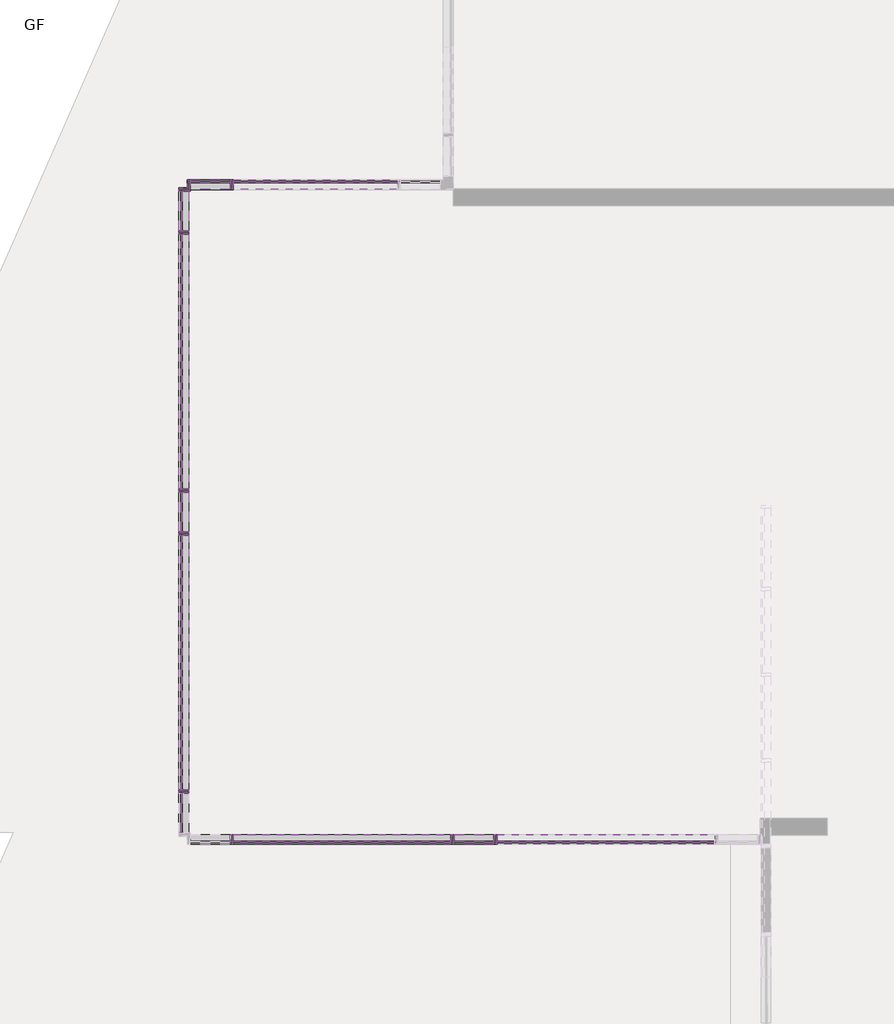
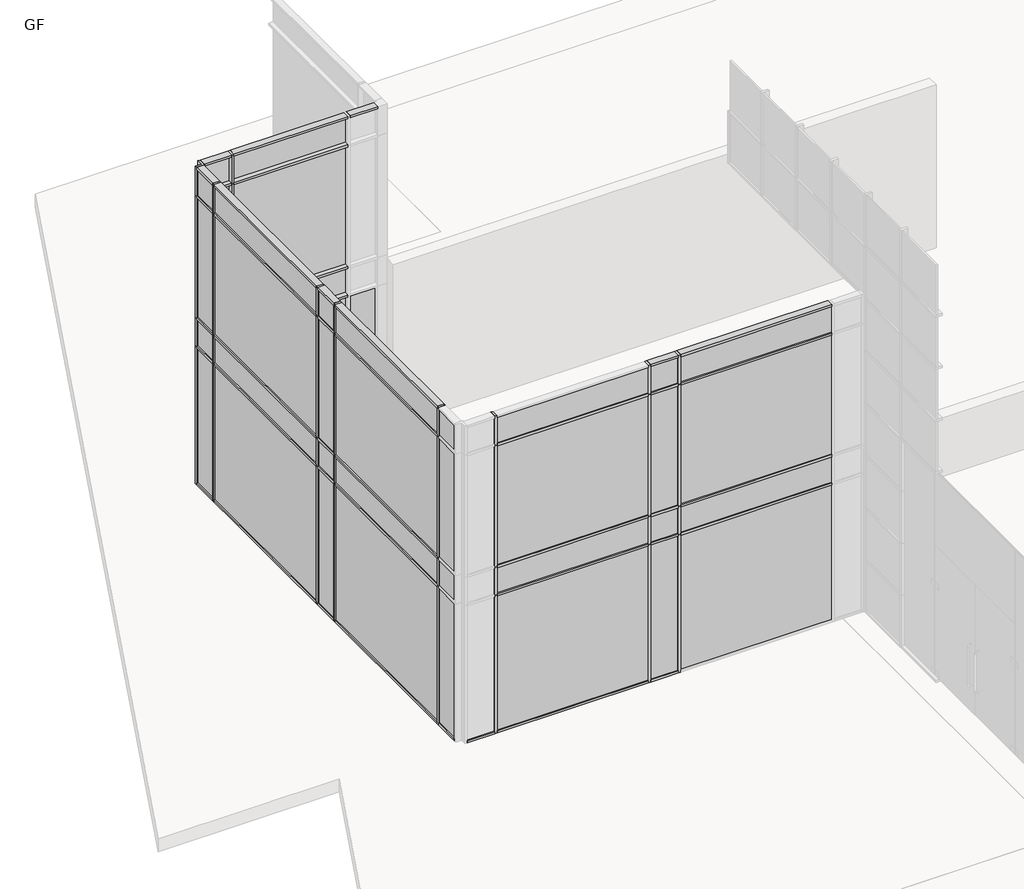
# One storey, part 13 of 23: 81 members, 41 plates.
"""IFC4 building model written with IfcOpenShell, lengths in millimetres."""

from ifc_helpers import new_model, si_unit, origin, place, context, project, spatial, transform, mapped, element, save
from components import rectangular_mullion_50_x_150mm_64d38db8, rectangular_mullion_50_x_150mm_68b3818a, rectangular_mullion_50_x_150mm_0240cd64, rectangular_mullion_50_x_150mm_d11e3bb4, rectangular_mullion_50_x_150mm_7d543e93, rectangular_mullion_50_x_150mm_9e0f1e24, rectangular_mullion_50_x_150mm_eae7d4bc, rectangular_mullion_50_x_150mm_e0b7c4f8, rectangular_mullion_50_x_150mm_4f882940, rectangular_mullion_50_x_150mm_edc7ebc1, rectangular_mullion_50_x_150mm_73a7075e, rectangular_mullion_50_x_150mm_567a4a66, v_corner_mullion_v_mullion_1_4652a198, v_corner_mullion_v_mullion_1_67d7d202, v_corner_mullion_v_mullion_1_71accf86, v_corner_mullion_v_mullion_1_6526e4b7, system_panel_glazed_24812111, system_panel_glazed_e5239730, system_panel_glazed_6ff5b55b, system_panel_glazed_93ed122c, system_panel_glazed_a7232eb8, system_panel_glazed_2ee935f9, system_panel_glazed_98bb05ca, system_panel_glazed_9694b00d, system_panel_glazed_ab3d2984, system_panel_glazed_6fe05368, system_panel_glazed_1585a9ad, system_panel_glazed_bcb18e60, system_panel_glazed_268463b7, system_panel_glazed_33089aa0, system_panel_glazed_04dc8901

model = new_model("IFC4")

# Units and contexts
model_context = context("Model", 3, world=origin())
ifc_project = project(units=[si_unit("LENGTHUNIT", "METRE", prefix="MILLI")], contexts=[model_context])

# Site, building, storey
site = spatial("IfcSite", under=ifc_project)
building = spatial("IfcBuilding", under=site)
storey = spatial("IfcBuildingStorey", under=building, Name="GF", Elevation=900.0)

# Members
placement = place(None, origin())
rectangular_mullion_50_x_150mm_shape = rectangular_mullion_50_x_150mm_64d38db8(model_context)
element("IfcMember", 1, ObjectType="Rectangular Mullion : 50 x 150mm", at=placement, inside=storey, context=model_context, shape_type="MappedRepresentation", body=[
    mapped(rectangular_mullion_50_x_150mm_shape, transform((-39612.5865899, 11022.3851348, 8200.0), x_axis=(0.0, 0.0, 1.0), y_axis=(-1.0, 0.0, 0.0), z_axis=(0.0, -1.0, 0.0))),
])
element("IfcMember", 2, ObjectType="Rectangular Mullion : 50 x 150mm", at=placement, inside=storey, context=model_context, shape_type="MappedRepresentation", body=[
    mapped(rectangular_mullion_50_x_150mm_shape, transform((-39612.5865899, 6472.3851347, 8200.0), x_axis=(0.0, 0.0, 1.0), y_axis=(-1.0, 0.0, 0.0), z_axis=(0.0, -1.0, 0.0))),
])
element("IfcMember", 3, ObjectType="Rectangular Mullion : 50 x 150mm", at=placement, inside=storey, context=model_context, shape_type="MappedRepresentation", body=[
    mapped(rectangular_mullion_50_x_150mm_shape, transform((-39612.5865899, 11622.3851347, 900.0), x_axis=(0.0, 0.0, -1.0), y_axis=(-1.0, 0.0, 0.0), z_axis=(0.0, 1.0, 0.0))),
])
element("IfcMember", 4, ObjectType="Rectangular Mullion : 50 x 150mm", at=placement, inside=storey, context=model_context, shape_type="MappedRepresentation", body=[
    mapped(rectangular_mullion_50_x_150mm_shape, transform((-39612.5865899, 2522.3851347, 900.0), x_axis=(0.0, 0.0, -1.0), y_axis=(-1.0, 0.0, 0.0), z_axis=(0.0, 1.0, 0.0))),
])
element("IfcMember", 5, ObjectType="Rectangular Mullion : 50 x 150mm", at=placement, inside=storey, context=model_context, shape_type="MappedRepresentation", body=[
    mapped(rectangular_mullion_50_x_150mm_shape, transform((-39612.5865899, 7072.3851347, 900.0), x_axis=(0.0, 0.0, -1.0), y_axis=(-1.0, 0.0, 0.0), z_axis=(0.0, 1.0, 0.0))),
])
element("IfcMember", 6, ObjectType="Rectangular Mullion : 50 x 150mm", at=placement, inside=storey, context=model_context, shape_type="MappedRepresentation", body=[
    mapped(rectangular_mullion_50_x_150mm_shape, transform((-35525.0865899, 1822.3851347, 8200.0), x_axis=(0.0, 0.0, 1.0), y_axis=(0.0, 1.0, 0.0), z_axis=(-1.0, 0.0, 0.0))),
])
element("IfcMember", 7, ObjectType="Rectangular Mullion : 50 x 150mm", at=placement, inside=storey, context=model_context, shape_type="MappedRepresentation", body=[
    mapped(rectangular_mullion_50_x_150mm_shape, transform((-38912.5865899, 1822.3851347, 900.0), x_axis=(0.0, 0.0, -1.0), y_axis=(0.0, 1.0, 0.0), z_axis=(1.0, 0.0, 0.0))),
])
element("IfcMember", 8, ObjectType="Rectangular Mullion : 50 x 150mm", at=placement, inside=storey, context=model_context, shape_type="MappedRepresentation", body=[
    mapped(rectangular_mullion_50_x_150mm_shape, transform((-34925.0865899, 1822.3851347, 900.0), x_axis=(0.0, 0.0, -1.0), y_axis=(0.0, 1.0, 0.0), z_axis=(1.0, 0.0, 0.0))),
])
rectangular_mullion_50_x_150mm_2_shape = rectangular_mullion_50_x_150mm_68b3818a(model_context)
element("IfcMember", 9, ObjectType="Rectangular Mullion : 50 x 150mm", at=placement, inside=storey, context=model_context, shape_type="MappedRepresentation", body=[
    mapped(rectangular_mullion_50_x_150mm_2_shape, transform((-35525.0865899, 1822.3851347, 7525.0), x_axis=(0.0, 0.0, 1.0), y_axis=(0.0, 1.0, 0.0), z_axis=(-1.0, 0.0, 0.0))),
])
element("IfcMember", 10, ObjectType="Rectangular Mullion : 50 x 150mm", at=placement, inside=storey, context=model_context, shape_type="MappedRepresentation", body=[
    mapped(rectangular_mullion_50_x_150mm_2_shape, transform((-35525.0865899, 1822.3851347, 4075.0), x_axis=(0.0, 0.0, 1.0), y_axis=(0.0, 1.0, 0.0), z_axis=(-1.0, 0.0, 0.0))),
])
element("IfcMember", 11, ObjectType="Rectangular Mullion : 50 x 150mm", at=placement, inside=storey, context=model_context, shape_type="MappedRepresentation", body=[
    mapped(rectangular_mullion_50_x_150mm_2_shape, transform((-35525.0865899, 1822.3851347, 4725.0), x_axis=(0.0, 0.0, 1.0), y_axis=(0.0, 1.0, 0.0), z_axis=(-1.0, 0.0, 0.0))),
])
element("IfcMember", 12, ObjectType="Rectangular Mullion : 50 x 150mm", at=placement, inside=storey, context=model_context, shape_type="MappedRepresentation", body=[
    mapped(rectangular_mullion_50_x_150mm_shape, transform((-39512.5865899, 11722.3851347, 8200.0), x_axis=(0.0, 0.0, 1.0), y_axis=(0.0, 1.0, 0.0), z_axis=(-1.0, 0.0, 0.0))),
])
element("IfcMember", 13, ObjectType="Rectangular Mullion : 50 x 150mm", at=placement, inside=storey, context=model_context, shape_type="MappedRepresentation", body=[
    mapped(rectangular_mullion_50_x_150mm_shape, transform((-36337.5865899, 11722.3851347, 8200.0), x_axis=(0.0, 0.0, 1.0), y_axis=(0.0, 1.0, 0.0), z_axis=(-1.0, 0.0, 0.0))),
])
element("IfcMember", 14, ObjectType="Rectangular Mullion : 50 x 150mm", at=placement, inside=storey, context=model_context, shape_type="MappedRepresentation", body=[
    mapped(rectangular_mullion_50_x_150mm_shape, transform((-38912.5865899, 11722.3851347, 900.0), x_axis=(0.0, 0.0, -1.0), y_axis=(0.0, 1.0, 0.0), z_axis=(1.0, 0.0, 0.0))),
])
element("IfcMember", 15, ObjectType="Rectangular Mullion : 50 x 150mm", at=placement, inside=storey, context=model_context, shape_type="MappedRepresentation", body=[
    mapped(rectangular_mullion_50_x_150mm_2_shape, transform((-39612.5865899, 11022.3851348, 7525.0), x_axis=(0.0, 0.0, 1.0), y_axis=(-1.0, 0.0, 0.0), z_axis=(0.0, -1.0, 0.0))),
])
element("IfcMember", 16, ObjectType="Rectangular Mullion : 50 x 150mm", at=placement, inside=storey, context=model_context, shape_type="MappedRepresentation", body=[
    mapped(rectangular_mullion_50_x_150mm_2_shape, transform((-39612.5865899, 6472.3851347, 7525.0), x_axis=(0.0, 0.0, 1.0), y_axis=(-1.0, 0.0, 0.0), z_axis=(0.0, -1.0, 0.0))),
])
element("IfcMember", 17, ObjectType="Rectangular Mullion : 50 x 150mm", at=placement, inside=storey, context=model_context, shape_type="MappedRepresentation", body=[
    mapped(rectangular_mullion_50_x_150mm_2_shape, transform((-39612.5865899, 11022.3851348, 4725.0), x_axis=(0.0, 0.0, 1.0), y_axis=(-1.0, 0.0, 0.0), z_axis=(0.0, -1.0, 0.0))),
])
element("IfcMember", 18, ObjectType="Rectangular Mullion : 50 x 150mm", at=placement, inside=storey, context=model_context, shape_type="MappedRepresentation", body=[
    mapped(rectangular_mullion_50_x_150mm_2_shape, transform((-39612.5865899, 6472.3851347, 4725.0), x_axis=(0.0, 0.0, 1.0), y_axis=(-1.0, 0.0, 0.0), z_axis=(0.0, -1.0, 0.0))),
])
element("IfcMember", 19, ObjectType="Rectangular Mullion : 50 x 150mm", at=placement, inside=storey, context=model_context, shape_type="MappedRepresentation", body=[
    mapped(rectangular_mullion_50_x_150mm_2_shape, transform((-39612.5865899, 11022.3851348, 4075.0), x_axis=(0.0, 0.0, 1.0), y_axis=(-1.0, 0.0, 0.0), z_axis=(0.0, -1.0, 0.0))),
])
element("IfcMember", 20, ObjectType="Rectangular Mullion : 50 x 150mm", at=placement, inside=storey, context=model_context, shape_type="MappedRepresentation", body=[
    mapped(rectangular_mullion_50_x_150mm_2_shape, transform((-39612.5865899, 6472.3851347, 4075.0), x_axis=(0.0, 0.0, 1.0), y_axis=(-1.0, 0.0, 0.0), z_axis=(0.0, -1.0, 0.0))),
])
element("IfcMember", 21, ObjectType="Rectangular Mullion : 50 x 150mm", at=placement, inside=storey, context=model_context, shape_type="MappedRepresentation", body=[
    mapped(rectangular_mullion_50_x_150mm_2_shape, transform((-39512.5865899, 11722.3851347, 7525.0), x_axis=(0.0, 0.0, 1.0), y_axis=(0.0, 1.0, 0.0), z_axis=(-1.0, 0.0, 0.0))),
])
element("IfcMember", 22, ObjectType="Rectangular Mullion : 50 x 150mm", at=placement, inside=storey, context=model_context, shape_type="MappedRepresentation", body=[
    mapped(rectangular_mullion_50_x_150mm_2_shape, transform((-39512.5865899, 11722.3851347, 4725.0), x_axis=(0.0, 0.0, 1.0), y_axis=(0.0, 1.0, 0.0), z_axis=(-1.0, 0.0, 0.0))),
])
element("IfcMember", 23, ObjectType="Rectangular Mullion : 50 x 150mm", at=placement, inside=storey, context=model_context, shape_type="MappedRepresentation", body=[
    mapped(rectangular_mullion_50_x_150mm_2_shape, transform((-39512.5865899, 11722.3851347, 4075.0), x_axis=(0.0, 0.0, 1.0), y_axis=(0.0, 1.0, 0.0), z_axis=(-1.0, 0.0, 0.0))),
])
rectangular_mullion_50_x_150mm_3_shape = rectangular_mullion_50_x_150mm_0240cd64(model_context)
element("IfcMember", 24, ObjectType="Rectangular Mullion : 50 x 150mm", at=placement, inside=storey, context=model_context, shape_type="MappedRepresentation", body=[
    mapped(rectangular_mullion_50_x_150mm_3_shape, transform((-38862.5865899, 11722.3851347, 8200.0), x_axis=(0.0, 0.0, 1.0), y_axis=(0.0, 1.0, 0.0), z_axis=(-1.0, 0.0, 0.0))),
])
rectangular_mullion_50_x_150mm_4_shape = rectangular_mullion_50_x_150mm_d11e3bb4(model_context)
element("IfcMember", 25, ObjectType="Rectangular Mullion : 50 x 150mm", at=placement, inside=storey, context=model_context, shape_type="MappedRepresentation", body=[
    mapped(rectangular_mullion_50_x_150mm_4_shape, transform((-34900.0865899, 1822.3851347, 4725.0), x_axis=(-1.0, 0.0, 0.0), y_axis=(0.0, 1.0, 0.0), z_axis=(0.0, 0.0, -1.0))),
])
element("IfcMember", 26, ObjectType="Rectangular Mullion : 50 x 150mm", at=placement, inside=storey, context=model_context, shape_type="MappedRepresentation", body=[
    mapped(rectangular_mullion_50_x_150mm_4_shape, transform((-35550.0865899, 1822.3851347, 4725.0), x_axis=(-1.0, 0.0, 0.0), y_axis=(0.0, 1.0, 0.0), z_axis=(0.0, 0.0, -1.0))),
])
element("IfcMember", 27, ObjectType="Rectangular Mullion : 50 x 150mm", at=placement, inside=storey, context=model_context, shape_type="MappedRepresentation", body=[
    mapped(rectangular_mullion_50_x_150mm_4_shape, transform((-38887.5865899, 1822.3851347, 4725.0), x_axis=(-1.0, 0.0, 0.0), y_axis=(0.0, 1.0, 0.0), z_axis=(0.0, 0.0, -1.0))),
])
rectangular_mullion_50_x_150mm_5_shape = rectangular_mullion_50_x_150mm_7d543e93(model_context)
element("IfcMember", 28, ObjectType="Rectangular Mullion : 50 x 150mm", at=placement, inside=storey, context=model_context, shape_type="MappedRepresentation", body=[
    mapped(rectangular_mullion_50_x_150mm_5_shape, transform((-34900.0865899, 1822.3851347, 4075.0), x_axis=(-1.0, 0.0, 0.0), y_axis=(0.0, 1.0, 0.0), z_axis=(0.0, 0.0, -1.0))),
])
element("IfcMember", 29, ObjectType="Rectangular Mullion : 50 x 150mm", at=placement, inside=storey, context=model_context, shape_type="MappedRepresentation", body=[
    mapped(rectangular_mullion_50_x_150mm_5_shape, transform((-35550.0865899, 1822.3851347, 4075.0), x_axis=(-1.0, 0.0, 0.0), y_axis=(0.0, 1.0, 0.0), z_axis=(0.0, 0.0, -1.0))),
])
element("IfcMember", 30, ObjectType="Rectangular Mullion : 50 x 150mm", at=placement, inside=storey, context=model_context, shape_type="MappedRepresentation", body=[
    mapped(rectangular_mullion_50_x_150mm_5_shape, transform((-38887.5865899, 1822.3851347, 4075.0), x_axis=(-1.0, 0.0, 0.0), y_axis=(0.0, 1.0, 0.0), z_axis=(0.0, 0.0, -1.0))),
])
rectangular_mullion_50_x_150mm_6_shape = rectangular_mullion_50_x_150mm_9e0f1e24(model_context)
element("IfcMember", 31, ObjectType="Rectangular Mullion : 50 x 150mm", at=placement, inside=storey, context=model_context, shape_type="MappedRepresentation", body=[
    mapped(rectangular_mullion_50_x_150mm_6_shape, transform((-34900.0865899, 1822.3851347, 7525.0), x_axis=(-1.0, 0.0, 0.0), y_axis=(0.0, 1.0, 0.0), z_axis=(0.0, 0.0, -1.0))),
])
element("IfcMember", 32, ObjectType="Rectangular Mullion : 50 x 150mm", at=placement, inside=storey, context=model_context, shape_type="MappedRepresentation", body=[
    mapped(rectangular_mullion_50_x_150mm_6_shape, transform((-35550.0865899, 1822.3851347, 7525.0), x_axis=(-1.0, 0.0, 0.0), y_axis=(0.0, 1.0, 0.0), z_axis=(0.0, 0.0, -1.0))),
])
element("IfcMember", 33, ObjectType="Rectangular Mullion : 50 x 150mm", at=placement, inside=storey, context=model_context, shape_type="MappedRepresentation", body=[
    mapped(rectangular_mullion_50_x_150mm_6_shape, transform((-38887.5865899, 1822.3851347, 7525.0), x_axis=(-1.0, 0.0, 0.0), y_axis=(0.0, 1.0, 0.0), z_axis=(0.0, 0.0, -1.0))),
])
element("IfcMember", 34, ObjectType="Rectangular Mullion : 50 x 150mm", at=placement, inside=storey, context=model_context, shape_type="MappedRepresentation", body=[
    mapped(rectangular_mullion_50_x_150mm_4_shape, transform((-39612.5865899, 10997.3851348, 4725.0), x_axis=(0.0, -1.0, 0.0), y_axis=(-1.0, 0.0, 0.0), z_axis=(0.0, 0.0, -1.0))),
])
element("IfcMember", 35, ObjectType="Rectangular Mullion : 50 x 150mm", at=placement, inside=storey, context=model_context, shape_type="MappedRepresentation", body=[
    mapped(rectangular_mullion_50_x_150mm_4_shape, transform((-39612.5865899, 7097.3851347, 4725.0), x_axis=(0.0, -1.0, 0.0), y_axis=(-1.0, 0.0, 0.0), z_axis=(0.0, 0.0, -1.0))),
])
element("IfcMember", 36, ObjectType="Rectangular Mullion : 50 x 150mm", at=placement, inside=storey, context=model_context, shape_type="MappedRepresentation", body=[
    mapped(rectangular_mullion_50_x_150mm_4_shape, transform((-39612.5865899, 6447.3851347, 4725.0), x_axis=(0.0, -1.0, 0.0), y_axis=(-1.0, 0.0, 0.0), z_axis=(0.0, 0.0, -1.0))),
])
element("IfcMember", 37, ObjectType="Rectangular Mullion : 50 x 150mm", at=placement, inside=storey, context=model_context, shape_type="MappedRepresentation", body=[
    mapped(rectangular_mullion_50_x_150mm_4_shape, transform((-39612.5865899, 2547.3851347, 4725.0), x_axis=(0.0, -1.0, 0.0), y_axis=(-1.0, 0.0, 0.0), z_axis=(0.0, 0.0, -1.0))),
])
element("IfcMember", 38, ObjectType="Rectangular Mullion : 50 x 150mm", at=placement, inside=storey, context=model_context, shape_type="MappedRepresentation", body=[
    mapped(rectangular_mullion_50_x_150mm_4_shape, transform((-38887.5865899, 11722.3851347, 4725.0), x_axis=(-1.0, 0.0, 0.0), y_axis=(0.0, 1.0, 0.0), z_axis=(0.0, 0.0, -1.0))),
])
element("IfcMember", 39, ObjectType="Rectangular Mullion : 50 x 150mm", at=placement, inside=storey, context=model_context, shape_type="MappedRepresentation", body=[
    mapped(rectangular_mullion_50_x_150mm_5_shape, transform((-39612.5865899, 10997.3851348, 4075.0), x_axis=(0.0, -1.0, 0.0), y_axis=(-1.0, 0.0, 0.0), z_axis=(0.0, 0.0, -1.0))),
])
element("IfcMember", 40, ObjectType="Rectangular Mullion : 50 x 150mm", at=placement, inside=storey, context=model_context, shape_type="MappedRepresentation", body=[
    mapped(rectangular_mullion_50_x_150mm_5_shape, transform((-39612.5865899, 7097.3851347, 4075.0), x_axis=(0.0, -1.0, 0.0), y_axis=(-1.0, 0.0, 0.0), z_axis=(0.0, 0.0, -1.0))),
])
element("IfcMember", 41, ObjectType="Rectangular Mullion : 50 x 150mm", at=placement, inside=storey, context=model_context, shape_type="MappedRepresentation", body=[
    mapped(rectangular_mullion_50_x_150mm_5_shape, transform((-39612.5865899, 6447.3851347, 4075.0), x_axis=(0.0, -1.0, 0.0), y_axis=(-1.0, 0.0, 0.0), z_axis=(0.0, 0.0, -1.0))),
])
element("IfcMember", 42, ObjectType="Rectangular Mullion : 50 x 150mm", at=placement, inside=storey, context=model_context, shape_type="MappedRepresentation", body=[
    mapped(rectangular_mullion_50_x_150mm_5_shape, transform((-39612.5865899, 2547.3851347, 4075.0), x_axis=(0.0, -1.0, 0.0), y_axis=(-1.0, 0.0, 0.0), z_axis=(0.0, 0.0, -1.0))),
])
element("IfcMember", 43, ObjectType="Rectangular Mullion : 50 x 150mm", at=placement, inside=storey, context=model_context, shape_type="MappedRepresentation", body=[
    mapped(rectangular_mullion_50_x_150mm_5_shape, transform((-38887.5865899, 11722.3851347, 4075.0), x_axis=(-1.0, 0.0, 0.0), y_axis=(0.0, 1.0, 0.0), z_axis=(0.0, 0.0, -1.0))),
])
element("IfcMember", 44, ObjectType="Rectangular Mullion : 50 x 150mm", at=placement, inside=storey, context=model_context, shape_type="MappedRepresentation", body=[
    mapped(rectangular_mullion_50_x_150mm_6_shape, transform((-39612.5865899, 10997.3851348, 7525.0), x_axis=(0.0, -1.0, 0.0), y_axis=(-1.0, 0.0, 0.0), z_axis=(0.0, 0.0, -1.0))),
])
element("IfcMember", 45, ObjectType="Rectangular Mullion : 50 x 150mm", at=placement, inside=storey, context=model_context, shape_type="MappedRepresentation", body=[
    mapped(rectangular_mullion_50_x_150mm_6_shape, transform((-39612.5865899, 7097.3851347, 7525.0), x_axis=(0.0, -1.0, 0.0), y_axis=(-1.0, 0.0, 0.0), z_axis=(0.0, 0.0, -1.0))),
])
element("IfcMember", 46, ObjectType="Rectangular Mullion : 50 x 150mm", at=placement, inside=storey, context=model_context, shape_type="MappedRepresentation", body=[
    mapped(rectangular_mullion_50_x_150mm_6_shape, transform((-39612.5865899, 6447.3851347, 7525.0), x_axis=(0.0, -1.0, 0.0), y_axis=(-1.0, 0.0, 0.0), z_axis=(0.0, 0.0, -1.0))),
])
element("IfcMember", 47, ObjectType="Rectangular Mullion : 50 x 150mm", at=placement, inside=storey, context=model_context, shape_type="MappedRepresentation", body=[
    mapped(rectangular_mullion_50_x_150mm_6_shape, transform((-39612.5865899, 2547.3851347, 7525.0), x_axis=(0.0, -1.0, 0.0), y_axis=(-1.0, 0.0, 0.0), z_axis=(0.0, 0.0, -1.0))),
])
element("IfcMember", 48, ObjectType="Rectangular Mullion : 50 x 150mm", at=placement, inside=storey, context=model_context, shape_type="MappedRepresentation", body=[
    mapped(rectangular_mullion_50_x_150mm_6_shape, transform((-38887.5865899, 11722.3851347, 7525.0), x_axis=(-1.0, 0.0, 0.0), y_axis=(0.0, 1.0, 0.0), z_axis=(0.0, 0.0, -1.0))),
])
rectangular_mullion_50_x_150mm_7_shape = rectangular_mullion_50_x_150mm_eae7d4bc(model_context)
element("IfcMember", 49, ObjectType="Rectangular Mullion : 50 x 150mm", at=placement, inside=storey, context=model_context, shape_type="MappedRepresentation", body=[
    mapped(rectangular_mullion_50_x_150mm_7_shape, transform((-38887.5865899, 1822.3851347, 900.0), x_axis=(-1.0, 0.0, 0.0), y_axis=(0.0, 1.0, 0.0), z_axis=(0.0, 0.0, -1.0))),
])
element("IfcMember", 50, ObjectType="Rectangular Mullion : 50 x 150mm", at=placement, inside=storey, context=model_context, shape_type="MappedRepresentation", body=[
    mapped(rectangular_mullion_50_x_150mm_7_shape, transform((-35550.0865899, 1822.3851347, 900.0), x_axis=(-1.0, 0.0, 0.0), y_axis=(0.0, 1.0, 0.0), z_axis=(0.0, 0.0, -1.0))),
])
element("IfcMember", 51, ObjectType="Rectangular Mullion : 50 x 150mm", at=placement, inside=storey, context=model_context, shape_type="MappedRepresentation", body=[
    mapped(rectangular_mullion_50_x_150mm_7_shape, transform((-34900.0865899, 1822.3851347, 900.0), x_axis=(-1.0, 0.0, 0.0), y_axis=(0.0, 1.0, 0.0), z_axis=(0.0, 0.0, -1.0))),
])
element("IfcMember", 52, ObjectType="Rectangular Mullion : 50 x 150mm", at=placement, inside=storey, context=model_context, shape_type="MappedRepresentation", body=[
    mapped(rectangular_mullion_50_x_150mm_7_shape, transform((-38887.5865899, 11722.3851347, 900.0), x_axis=(-1.0, 0.0, 0.0), y_axis=(0.0, 1.0, 0.0), z_axis=(0.0, 0.0, -1.0))),
])
element("IfcMember", 53, ObjectType="Rectangular Mullion : 50 x 150mm", at=placement, inside=storey, context=model_context, shape_type="MappedRepresentation", body=[
    mapped(rectangular_mullion_50_x_150mm_7_shape, transform((-39612.5865899, 10997.3851348, 900.0), x_axis=(0.0, -1.0, 0.0), y_axis=(-1.0, 0.0, 0.0), z_axis=(0.0, 0.0, -1.0))),
])
element("IfcMember", 54, ObjectType="Rectangular Mullion : 50 x 150mm", at=placement, inside=storey, context=model_context, shape_type="MappedRepresentation", body=[
    mapped(rectangular_mullion_50_x_150mm_7_shape, transform((-39612.5865899, 2547.3851347, 900.0), x_axis=(0.0, -1.0, 0.0), y_axis=(-1.0, 0.0, 0.0), z_axis=(0.0, 0.0, -1.0))),
])
element("IfcMember", 55, ObjectType="Rectangular Mullion : 50 x 150mm", at=placement, inside=storey, context=model_context, shape_type="MappedRepresentation", body=[
    mapped(rectangular_mullion_50_x_150mm_7_shape, transform((-39612.5865899, 7097.3851347, 900.0), x_axis=(0.0, -1.0, 0.0), y_axis=(-1.0, 0.0, 0.0), z_axis=(0.0, 0.0, -1.0))),
])
element("IfcMember", 56, ObjectType="Rectangular Mullion : 50 x 150mm", at=placement, inside=storey, context=model_context, shape_type="MappedRepresentation", body=[
    mapped(rectangular_mullion_50_x_150mm_7_shape, transform((-39612.5865899, 6447.3851347, 900.0), x_axis=(0.0, -1.0, 0.0), y_axis=(-1.0, 0.0, 0.0), z_axis=(0.0, 0.0, -1.0))),
])
rectangular_mullion_50_x_150mm_8_shape = rectangular_mullion_50_x_150mm_e0b7c4f8(model_context)
element("IfcMember", 57, ObjectType="Rectangular Mullion : 50 x 150mm", at=placement, inside=storey, context=model_context, shape_type="MappedRepresentation", body=[
    mapped(rectangular_mullion_50_x_150mm_8_shape, transform((-39612.5865899, 10972.3851348, 900.0), x_axis=(0.0, 0.0, -1.0), y_axis=(-1.0, 0.0, 0.0), z_axis=(0.0, 1.0, 0.0))),
])
element("IfcMember", 58, ObjectType="Rectangular Mullion : 50 x 150mm", at=placement, inside=storey, context=model_context, shape_type="MappedRepresentation", body=[
    mapped(rectangular_mullion_50_x_150mm_8_shape, transform((-39612.5865899, 6422.3851347, 900.0), x_axis=(0.0, 0.0, -1.0), y_axis=(-1.0, 0.0, 0.0), z_axis=(0.0, 1.0, 0.0))),
])
element("IfcMember", 59, ObjectType="Rectangular Mullion : 50 x 150mm", at=placement, inside=storey, context=model_context, shape_type="MappedRepresentation", body=[
    mapped(rectangular_mullion_50_x_150mm_8_shape, transform((-39612.5865899, 2572.3851347, 8200.0), x_axis=(0.0, 0.0, 1.0), y_axis=(-1.0, 0.0, 0.0), z_axis=(0.0, -1.0, 0.0))),
])
element("IfcMember", 60, ObjectType="Rectangular Mullion : 50 x 150mm", at=placement, inside=storey, context=model_context, shape_type="MappedRepresentation", body=[
    mapped(rectangular_mullion_50_x_150mm_8_shape, transform((-39612.5865899, 7122.3851347, 8200.0), x_axis=(0.0, 0.0, 1.0), y_axis=(-1.0, 0.0, 0.0), z_axis=(0.0, -1.0, 0.0))),
])
rectangular_mullion_50_x_150mm_9_shape = rectangular_mullion_50_x_150mm_4f882940(model_context)
element("IfcMember", 61, ObjectType="Rectangular Mullion : 50 x 150mm", at=placement, inside=storey, context=model_context, shape_type="MappedRepresentation", body=[
    mapped(rectangular_mullion_50_x_150mm_9_shape, transform((-39612.5865899, 7122.3851347, 7525.0), x_axis=(0.0, 0.0, 1.0), y_axis=(-1.0, 0.0, 0.0), z_axis=(0.0, -1.0, 0.0))),
])
element("IfcMember", 62, ObjectType="Rectangular Mullion : 50 x 150mm", at=placement, inside=storey, context=model_context, shape_type="MappedRepresentation", body=[
    mapped(rectangular_mullion_50_x_150mm_9_shape, transform((-39612.5865899, 2572.3851347, 7525.0), x_axis=(0.0, 0.0, 1.0), y_axis=(-1.0, 0.0, 0.0), z_axis=(0.0, -1.0, 0.0))),
])
element("IfcMember", 63, ObjectType="Rectangular Mullion : 50 x 150mm", at=placement, inside=storey, context=model_context, shape_type="MappedRepresentation", body=[
    mapped(rectangular_mullion_50_x_150mm_9_shape, transform((-39612.5865899, 7122.3851347, 4725.0), x_axis=(0.0, 0.0, 1.0), y_axis=(-1.0, 0.0, 0.0), z_axis=(0.0, -1.0, 0.0))),
])
element("IfcMember", 64, ObjectType="Rectangular Mullion : 50 x 150mm", at=placement, inside=storey, context=model_context, shape_type="MappedRepresentation", body=[
    mapped(rectangular_mullion_50_x_150mm_9_shape, transform((-39612.5865899, 2572.3851347, 4725.0), x_axis=(0.0, 0.0, 1.0), y_axis=(-1.0, 0.0, 0.0), z_axis=(0.0, -1.0, 0.0))),
])
element("IfcMember", 65, ObjectType="Rectangular Mullion : 50 x 150mm", at=placement, inside=storey, context=model_context, shape_type="MappedRepresentation", body=[
    mapped(rectangular_mullion_50_x_150mm_9_shape, transform((-39612.5865899, 7122.3851347, 4075.0), x_axis=(0.0, 0.0, 1.0), y_axis=(-1.0, 0.0, 0.0), z_axis=(0.0, -1.0, 0.0))),
])
element("IfcMember", 66, ObjectType="Rectangular Mullion : 50 x 150mm", at=placement, inside=storey, context=model_context, shape_type="MappedRepresentation", body=[
    mapped(rectangular_mullion_50_x_150mm_9_shape, transform((-39612.5865899, 2572.3851347, 4075.0), x_axis=(0.0, 0.0, 1.0), y_axis=(-1.0, 0.0, 0.0), z_axis=(0.0, -1.0, 0.0))),
])
rectangular_mullion_50_x_150mm_10_shape = rectangular_mullion_50_x_150mm_edc7ebc1(model_context)
element("IfcMember", 67, ObjectType="Rectangular Mullion : 50 x 150mm", at=placement, inside=storey, context=model_context, shape_type="MappedRepresentation", body=[
    mapped(rectangular_mullion_50_x_150mm_10_shape, transform((-38862.5865899, 11722.3851347, 7525.0), x_axis=(0.0, 0.0, 1.0), y_axis=(0.0, 1.0, 0.0), z_axis=(-1.0, 0.0, 0.0))),
])
element("IfcMember", 68, ObjectType="Rectangular Mullion : 50 x 150mm", at=placement, inside=storey, context=model_context, shape_type="MappedRepresentation", body=[
    mapped(rectangular_mullion_50_x_150mm_10_shape, transform((-38862.5865899, 11722.3851347, 4725.0), x_axis=(0.0, 0.0, 1.0), y_axis=(0.0, 1.0, 0.0), z_axis=(-1.0, 0.0, 0.0))),
])
element("IfcMember", 69, ObjectType="Rectangular Mullion : 50 x 150mm", at=placement, inside=storey, context=model_context, shape_type="MappedRepresentation", body=[
    mapped(rectangular_mullion_50_x_150mm_10_shape, transform((-38862.5865899, 11722.3851347, 4075.0), x_axis=(0.0, 0.0, 1.0), y_axis=(0.0, 1.0, 0.0), z_axis=(-1.0, 0.0, 0.0))),
])
rectangular_mullion_50_x_150mm_11_shape = rectangular_mullion_50_x_150mm_73a7075e(model_context)
element("IfcMember", 70, ObjectType="Rectangular Mullion : 50 x 150mm", at=placement, inside=storey, context=model_context, shape_type="MappedRepresentation", body=[
    mapped(rectangular_mullion_50_x_150mm_11_shape, transform((-35575.0865899, 1822.3851347, 900.0), x_axis=(0.0, 0.0, -1.0), y_axis=(0.0, 1.0, 0.0), z_axis=(1.0, 0.0, 0.0))),
])
element("IfcMember", 71, ObjectType="Rectangular Mullion : 50 x 150mm", at=placement, inside=storey, context=model_context, shape_type="MappedRepresentation", body=[
    mapped(rectangular_mullion_50_x_150mm_11_shape, transform((-34875.0865899, 1822.3851347, 8200.0), x_axis=(0.0, 0.0, 1.0), y_axis=(0.0, 1.0, 0.0), z_axis=(-1.0, 0.0, 0.0))),
])
rectangular_mullion_50_x_150mm_12_shape = rectangular_mullion_50_x_150mm_567a4a66(model_context)
element("IfcMember", 72, ObjectType="Rectangular Mullion : 50 x 150mm", at=placement, inside=storey, context=model_context, shape_type="MappedRepresentation", body=[
    mapped(rectangular_mullion_50_x_150mm_12_shape, transform((-34875.0865899, 1822.3851347, 7525.0), x_axis=(0.0, 0.0, 1.0), y_axis=(0.0, 1.0, 0.0), z_axis=(-1.0, 0.0, 0.0))),
])
element("IfcMember", 73, ObjectType="Rectangular Mullion : 50 x 150mm", at=placement, inside=storey, context=model_context, shape_type="MappedRepresentation", body=[
    mapped(rectangular_mullion_50_x_150mm_12_shape, transform((-38862.5865899, 1822.3851347, 7525.0), x_axis=(0.0, 0.0, 1.0), y_axis=(0.0, 1.0, 0.0), z_axis=(-1.0, 0.0, 0.0))),
])
element("IfcMember", 74, ObjectType="Rectangular Mullion : 50 x 150mm", at=placement, inside=storey, context=model_context, shape_type="MappedRepresentation", body=[
    mapped(rectangular_mullion_50_x_150mm_12_shape, transform((-34875.0865899, 1822.3851347, 4075.0), x_axis=(0.0, 0.0, 1.0), y_axis=(0.0, 1.0, 0.0), z_axis=(-1.0, 0.0, 0.0))),
])
element("IfcMember", 75, ObjectType="Rectangular Mullion : 50 x 150mm", at=placement, inside=storey, context=model_context, shape_type="MappedRepresentation", body=[
    mapped(rectangular_mullion_50_x_150mm_12_shape, transform((-38862.5865899, 1822.3851347, 4075.0), x_axis=(0.0, 0.0, 1.0), y_axis=(0.0, 1.0, 0.0), z_axis=(-1.0, 0.0, 0.0))),
])
element("IfcMember", 76, ObjectType="Rectangular Mullion : 50 x 150mm", at=placement, inside=storey, context=model_context, shape_type="MappedRepresentation", body=[
    mapped(rectangular_mullion_50_x_150mm_12_shape, transform((-34875.0865899, 1822.3851347, 4725.0), x_axis=(0.0, 0.0, 1.0), y_axis=(0.0, 1.0, 0.0), z_axis=(-1.0, 0.0, 0.0))),
])
element("IfcMember", 77, ObjectType="Rectangular Mullion : 50 x 150mm", at=placement, inside=storey, context=model_context, shape_type="MappedRepresentation", body=[
    mapped(rectangular_mullion_50_x_150mm_12_shape, transform((-38862.5865899, 1822.3851347, 4725.0), x_axis=(0.0, 0.0, 1.0), y_axis=(0.0, 1.0, 0.0), z_axis=(-1.0, 0.0, 0.0))),
])
v_corner_mullion_v_mullion_1_shape = v_corner_mullion_v_mullion_1_4652a198(model_context)
element("IfcMember", 78, ObjectType="V Corner Mullion : V Mullion 1", at=placement, inside=storey, context=model_context, shape_type="MappedRepresentation", body=[
    mapped(v_corner_mullion_v_mullion_1_shape, transform((-39612.5865899, 11722.3851347, 7525.0), x_axis=(-1.0, 0.0, 0.0), y_axis=(0.0, 1.0, 0.0), z_axis=(0.0, 0.0, -1.0))),
])
v_corner_mullion_v_mullion_1_2_shape = v_corner_mullion_v_mullion_1_67d7d202(model_context)
element("IfcMember", 79, ObjectType="V Corner Mullion : V Mullion 1", at=placement, inside=storey, context=model_context, shape_type="MappedRepresentation", body=[
    mapped(v_corner_mullion_v_mullion_1_2_shape, transform((-39612.5865899, 11722.3851347, 4725.0), x_axis=(-1.0, 0.0, 0.0), y_axis=(0.0, 1.0, 0.0), z_axis=(0.0, 0.0, -1.0))),
])
v_corner_mullion_v_mullion_1_3_shape = v_corner_mullion_v_mullion_1_71accf86(model_context)
element("IfcMember", 80, ObjectType="V Corner Mullion : V Mullion 1", at=placement, inside=storey, context=model_context, shape_type="MappedRepresentation", body=[
    mapped(v_corner_mullion_v_mullion_1_3_shape, transform((-39612.5865899, 11722.3851347, 4075.0), x_axis=(-1.0, 0.0, 0.0), y_axis=(0.0, 1.0, 0.0), z_axis=(0.0, 0.0, -1.0))),
])
v_corner_mullion_v_mullion_1_4_shape = v_corner_mullion_v_mullion_1_6526e4b7(model_context)
element("IfcMember", 81, ObjectType="V Corner Mullion : V Mullion 1", at=placement, inside=storey, context=model_context, shape_type="MappedRepresentation", body=[
    mapped(v_corner_mullion_v_mullion_1_4_shape, transform((-39612.5865899, 11722.3851347, 900.0), x_axis=(-1.0, 0.0, 0.0), y_axis=(0.0, 1.0, 0.0), z_axis=(0.0, 0.0, -1.0))),
])

# Plates
system_panel_glazed_shape = system_panel_glazed_24812111(model_context)
element("IfcPlate", 82, ObjectType="System Panel : Glazed", at=placement, inside=storey, context=model_context, shape_type="MappedRepresentation", body=[
    mapped(system_panel_glazed_shape, transform((-35225.0865899, 1822.3851347, 7550.0), x_axis=(-1.0, 0.0, 0.0), y_axis=(0.0, -1.0, 0.0), z_axis=(0.0, 0.0, 1.0))),
])
element("IfcPlate", 83, ObjectType="System Panel : Glazed", at=placement, inside=storey, context=model_context, shape_type="MappedRepresentation", body=[
    mapped(system_panel_glazed_shape, transform((-35225.0865899, 1822.3851347, 4100.0), x_axis=(-1.0, 0.0, 0.0), y_axis=(0.0, -1.0, 0.0), z_axis=(0.0, 0.0, 1.0))),
])
system_panel_glazed_2_shape = system_panel_glazed_e5239730(model_context)
element("IfcPlate", 84, ObjectType="System Panel : Glazed", at=placement, inside=storey, context=model_context, shape_type="MappedRepresentation", body=[
    mapped(system_panel_glazed_2_shape, transform((-35225.0865899, 1822.3851347, 4750.0), x_axis=(-1.0, 0.0, 0.0), y_axis=(0.0, -1.0, 0.0), z_axis=(0.0, 0.0, 1.0))),
])
system_panel_glazed_3_shape = system_panel_glazed_6ff5b55b(model_context)
element("IfcPlate", 85, ObjectType="System Panel : Glazed", at=placement, inside=storey, context=model_context, shape_type="MappedRepresentation", body=[
    mapped(system_panel_glazed_3_shape, transform((-39612.5865899, 11322.3851348, 4750.0), x_axis=(0.0, -1.0, 0.0), y_axis=(1.0, 0.0, 0.0), z_axis=(0.0, 0.0, 1.0))),
])
element("IfcPlate", 86, ObjectType="System Panel : Glazed", at=placement, inside=storey, context=model_context, shape_type="MappedRepresentation", body=[
    mapped(system_panel_glazed_3_shape, transform((-39612.5865899, 6772.3851347, 4750.0), x_axis=(0.0, -1.0, 0.0), y_axis=(1.0, 0.0, 0.0), z_axis=(0.0, 0.0, 1.0))),
])
element("IfcPlate", 87, ObjectType="System Panel : Glazed", at=placement, inside=storey, context=model_context, shape_type="MappedRepresentation", body=[
    mapped(system_panel_glazed_3_shape, transform((-39612.5865899, 2222.3851347, 4750.0), x_axis=(0.0, -1.0, 0.0), y_axis=(1.0, 0.0, 0.0), z_axis=(0.0, 0.0, 1.0))),
])
element("IfcPlate", 88, ObjectType="System Panel : Glazed", at=placement, inside=storey, context=model_context, shape_type="MappedRepresentation", body=[
    mapped(system_panel_glazed_3_shape, transform((-39212.5865899, 11722.3851347, 4750.0), x_axis=(-1.0, 0.0, 0.0), y_axis=(0.0, -1.0, 0.0), z_axis=(0.0, 0.0, 1.0))),
])
system_panel_glazed_4_shape = system_panel_glazed_93ed122c(model_context)
element("IfcPlate", 89, ObjectType="System Panel : Glazed", at=placement, inside=storey, context=model_context, shape_type="MappedRepresentation", body=[
    mapped(system_panel_glazed_4_shape, transform((-39612.5865899, 11322.3851348, 7550.0), x_axis=(0.0, -1.0, 0.0), y_axis=(1.0, 0.0, 0.0), z_axis=(0.0, 0.0, 1.0))),
])
element("IfcPlate", 90, ObjectType="System Panel : Glazed", at=placement, inside=storey, context=model_context, shape_type="MappedRepresentation", body=[
    mapped(system_panel_glazed_4_shape, transform((-39612.5865899, 6772.3851347, 7550.0), x_axis=(0.0, -1.0, 0.0), y_axis=(1.0, 0.0, 0.0), z_axis=(0.0, 0.0, 1.0))),
])
element("IfcPlate", 91, ObjectType="System Panel : Glazed", at=placement, inside=storey, context=model_context, shape_type="MappedRepresentation", body=[
    mapped(system_panel_glazed_4_shape, transform((-39612.5865899, 2222.3851347, 7550.0), x_axis=(0.0, -1.0, 0.0), y_axis=(1.0, 0.0, 0.0), z_axis=(0.0, 0.0, 1.0))),
])
element("IfcPlate", 92, ObjectType="System Panel : Glazed", at=placement, inside=storey, context=model_context, shape_type="MappedRepresentation", body=[
    mapped(system_panel_glazed_4_shape, transform((-39612.5865899, 11322.3851348, 4100.0), x_axis=(0.0, -1.0, 0.0), y_axis=(1.0, 0.0, 0.0), z_axis=(0.0, 0.0, 1.0))),
])
element("IfcPlate", 93, ObjectType="System Panel : Glazed", at=placement, inside=storey, context=model_context, shape_type="MappedRepresentation", body=[
    mapped(system_panel_glazed_4_shape, transform((-39612.5865899, 6772.3851347, 4100.0), x_axis=(0.0, -1.0, 0.0), y_axis=(1.0, 0.0, 0.0), z_axis=(0.0, 0.0, 1.0))),
])
element("IfcPlate", 94, ObjectType="System Panel : Glazed", at=placement, inside=storey, context=model_context, shape_type="MappedRepresentation", body=[
    mapped(system_panel_glazed_4_shape, transform((-39612.5865899, 2222.3851347, 4100.0), x_axis=(0.0, -1.0, 0.0), y_axis=(1.0, 0.0, 0.0), z_axis=(0.0, 0.0, 1.0))),
])
element("IfcPlate", 95, ObjectType="System Panel : Glazed", at=placement, inside=storey, context=model_context, shape_type="MappedRepresentation", body=[
    mapped(system_panel_glazed_4_shape, transform((-39212.5865899, 11722.3851347, 7550.0), x_axis=(-1.0, 0.0, 0.0), y_axis=(0.0, -1.0, 0.0), z_axis=(0.0, 0.0, 1.0))),
])
element("IfcPlate", 96, ObjectType="System Panel : Glazed", at=placement, inside=storey, context=model_context, shape_type="MappedRepresentation", body=[
    mapped(system_panel_glazed_4_shape, transform((-39212.5865899, 11722.3851347, 4100.0), x_axis=(-1.0, 0.0, 0.0), y_axis=(0.0, -1.0, 0.0), z_axis=(0.0, 0.0, 1.0))),
])
system_panel_glazed_5_shape = system_panel_glazed_a7232eb8(model_context)
element("IfcPlate", 97, ObjectType="System Panel : Glazed", at=placement, inside=storey, context=model_context, shape_type="MappedRepresentation", body=[
    mapped(system_panel_glazed_5_shape, transform((-35225.0865899, 1822.3851347, 950.0), x_axis=(-1.0, 0.0, 0.0), y_axis=(0.0, -1.0, 0.0), z_axis=(0.0, 0.0, 1.0))),
])
system_panel_glazed_6_shape = system_panel_glazed_2ee935f9(model_context)
element("IfcPlate", 98, ObjectType="System Panel : Glazed", at=placement, inside=storey, context=model_context, shape_type="MappedRepresentation", body=[
    mapped(system_panel_glazed_6_shape, transform((-39612.5865899, 11322.3851348, 950.0), x_axis=(0.0, -1.0, 0.0), y_axis=(1.0, 0.0, 0.0), z_axis=(0.0, 0.0, 1.0))),
])
element("IfcPlate", 99, ObjectType="System Panel : Glazed", at=placement, inside=storey, context=model_context, shape_type="MappedRepresentation", body=[
    mapped(system_panel_glazed_6_shape, transform((-39612.5865899, 2222.3851347, 950.0), x_axis=(0.0, -1.0, 0.0), y_axis=(1.0, 0.0, 0.0), z_axis=(0.0, 0.0, 1.0))),
])
element("IfcPlate", 100, ObjectType="System Panel : Glazed", at=placement, inside=storey, context=model_context, shape_type="MappedRepresentation", body=[
    mapped(system_panel_glazed_6_shape, transform((-39612.5865899, 6772.3851347, 950.0), x_axis=(0.0, -1.0, 0.0), y_axis=(1.0, 0.0, 0.0), z_axis=(0.0, 0.0, 1.0))),
])
element("IfcPlate", 101, ObjectType="System Panel : Glazed", at=placement, inside=storey, context=model_context, shape_type="MappedRepresentation", body=[
    mapped(system_panel_glazed_6_shape, transform((-36037.5865899, 11722.3851347, 950.0), x_axis=(-1.0, 0.0, 0.0), y_axis=(0.0, -1.0, 0.0), z_axis=(0.0, 0.0, 1.0))),
])
element("IfcPlate", 102, ObjectType="System Panel : Glazed", at=placement, inside=storey, context=model_context, shape_type="MappedRepresentation", body=[
    mapped(system_panel_glazed_6_shape, transform((-39212.5865899, 11722.3851347, 950.0), x_axis=(-1.0, 0.0, 0.0), y_axis=(0.0, -1.0, 0.0), z_axis=(0.0, 0.0, 1.0))),
])
system_panel_glazed_7_shape = system_panel_glazed_98bb05ca(model_context)
element("IfcPlate", 103, ObjectType="System Panel : Glazed", at=placement, inside=storey, context=model_context, shape_type="MappedRepresentation", body=[
    mapped(system_panel_glazed_7_shape, transform((-37625.0865899, 11722.3851347, 950.0), x_axis=(-1.0, 0.0, 0.0), y_axis=(0.0, -1.0, 0.0), z_axis=(0.0, 0.0, 1.0))),
])
system_panel_glazed_8_shape = system_panel_glazed_9694b00d(model_context)
element("IfcPlate", 104, ObjectType="System Panel : Glazed", at=placement, inside=storey, context=model_context, shape_type="MappedRepresentation", body=[
    mapped(system_panel_glazed_8_shape, transform((-37625.0865899, 11722.3851347, 7550.0), x_axis=(-1.0, 0.0, 0.0), y_axis=(0.0, -1.0, 0.0), z_axis=(0.0, 0.0, 1.0))),
])
element("IfcPlate", 105, ObjectType="System Panel : Glazed", at=placement, inside=storey, context=model_context, shape_type="MappedRepresentation", body=[
    mapped(system_panel_glazed_8_shape, transform((-37625.0865899, 11722.3851347, 4100.0), x_axis=(-1.0, 0.0, 0.0), y_axis=(0.0, -1.0, 0.0), z_axis=(0.0, 0.0, 1.0))),
])
system_panel_glazed_9_shape = system_panel_glazed_ab3d2984(model_context)
element("IfcPlate", 106, ObjectType="System Panel : Glazed", at=placement, inside=storey, context=model_context, shape_type="MappedRepresentation", body=[
    mapped(system_panel_glazed_9_shape, transform((-39612.5865899, 9047.3851348, 950.0), x_axis=(0.0, -1.0, 0.0), y_axis=(1.0, 0.0, 0.0), z_axis=(0.0, 0.0, 1.0))),
])
element("IfcPlate", 107, ObjectType="System Panel : Glazed", at=placement, inside=storey, context=model_context, shape_type="MappedRepresentation", body=[
    mapped(system_panel_glazed_9_shape, transform((-39612.5865899, 4497.3851347, 950.0), x_axis=(0.0, -1.0, 0.0), y_axis=(1.0, 0.0, 0.0), z_axis=(0.0, 0.0, 1.0))),
])
system_panel_glazed_10_shape = system_panel_glazed_6fe05368(model_context)
element("IfcPlate", 108, ObjectType="System Panel : Glazed", at=placement, inside=storey, context=model_context, shape_type="MappedRepresentation", body=[
    mapped(system_panel_glazed_10_shape, transform((-39612.5865899, 9047.3851348, 7550.0), x_axis=(0.0, -1.0, 0.0), y_axis=(1.0, 0.0, 0.0), z_axis=(0.0, 0.0, 1.0))),
])
element("IfcPlate", 109, ObjectType="System Panel : Glazed", at=placement, inside=storey, context=model_context, shape_type="MappedRepresentation", body=[
    mapped(system_panel_glazed_10_shape, transform((-39612.5865899, 4497.3851347, 7550.0), x_axis=(0.0, -1.0, 0.0), y_axis=(1.0, 0.0, 0.0), z_axis=(0.0, 0.0, 1.0))),
])
element("IfcPlate", 110, ObjectType="System Panel : Glazed", at=placement, inside=storey, context=model_context, shape_type="MappedRepresentation", body=[
    mapped(system_panel_glazed_10_shape, transform((-39612.5865899, 9047.3851348, 4100.0), x_axis=(0.0, -1.0, 0.0), y_axis=(1.0, 0.0, 0.0), z_axis=(0.0, 0.0, 1.0))),
])
element("IfcPlate", 111, ObjectType="System Panel : Glazed", at=placement, inside=storey, context=model_context, shape_type="MappedRepresentation", body=[
    mapped(system_panel_glazed_10_shape, transform((-39612.5865899, 4497.3851347, 4100.0), x_axis=(0.0, -1.0, 0.0), y_axis=(1.0, 0.0, 0.0), z_axis=(0.0, 0.0, 1.0))),
])
system_panel_glazed_11_shape = system_panel_glazed_1585a9ad(model_context)
element("IfcPlate", 112, ObjectType="System Panel : Glazed", at=placement, inside=storey, context=model_context, shape_type="MappedRepresentation", body=[
    mapped(system_panel_glazed_11_shape, transform((-39612.5865899, 9047.3851348, 4750.0), x_axis=(0.0, -1.0, 0.0), y_axis=(1.0, 0.0, 0.0), z_axis=(0.0, 0.0, 1.0))),
])
element("IfcPlate", 113, ObjectType="System Panel : Glazed", at=placement, inside=storey, context=model_context, shape_type="MappedRepresentation", body=[
    mapped(system_panel_glazed_11_shape, transform((-39612.5865899, 4497.3851347, 4750.0), x_axis=(0.0, -1.0, 0.0), y_axis=(1.0, 0.0, 0.0), z_axis=(0.0, 0.0, 1.0))),
])
system_panel_glazed_12_shape = system_panel_glazed_bcb18e60(model_context)
element("IfcPlate", 114, ObjectType="System Panel : Glazed", at=placement, inside=storey, context=model_context, shape_type="MappedRepresentation", body=[
    mapped(system_panel_glazed_12_shape, transform((-37625.0865899, 11722.3851347, 4750.0), x_axis=(-1.0, 0.0, 0.0), y_axis=(0.0, -1.0, 0.0), z_axis=(0.0, 0.0, 1.0))),
])
system_panel_glazed_13_shape = system_panel_glazed_268463b7(model_context)
element("IfcPlate", 115, ObjectType="System Panel : Glazed", at=placement, inside=storey, context=model_context, shape_type="MappedRepresentation", body=[
    mapped(system_panel_glazed_13_shape, transform((-33231.3365899, 1822.3851347, 950.0), x_axis=(-1.0, 0.0, 0.0), y_axis=(0.0, -1.0, 0.0), z_axis=(0.0, 0.0, 1.0))),
])
element("IfcPlate", 116, ObjectType="System Panel : Glazed", at=placement, inside=storey, context=model_context, shape_type="MappedRepresentation", body=[
    mapped(system_panel_glazed_13_shape, transform((-37218.8365899, 1822.3851347, 950.0), x_axis=(-1.0, 0.0, 0.0), y_axis=(0.0, -1.0, 0.0), z_axis=(0.0, 0.0, 1.0))),
])
system_panel_glazed_14_shape = system_panel_glazed_33089aa0(model_context)
element("IfcPlate", 117, ObjectType="System Panel : Glazed", at=placement, inside=storey, context=model_context, shape_type="MappedRepresentation", body=[
    mapped(system_panel_glazed_14_shape, transform((-33231.3365899, 1822.3851347, 7550.0), x_axis=(-1.0, 0.0, 0.0), y_axis=(0.0, -1.0, 0.0), z_axis=(0.0, 0.0, 1.0))),
])
element("IfcPlate", 118, ObjectType="System Panel : Glazed", at=placement, inside=storey, context=model_context, shape_type="MappedRepresentation", body=[
    mapped(system_panel_glazed_14_shape, transform((-37218.8365899, 1822.3851347, 7550.0), x_axis=(-1.0, 0.0, 0.0), y_axis=(0.0, -1.0, 0.0), z_axis=(0.0, 0.0, 1.0))),
])
element("IfcPlate", 119, ObjectType="System Panel : Glazed", at=placement, inside=storey, context=model_context, shape_type="MappedRepresentation", body=[
    mapped(system_panel_glazed_14_shape, transform((-33231.3365899, 1822.3851347, 4100.0), x_axis=(-1.0, 0.0, 0.0), y_axis=(0.0, -1.0, 0.0), z_axis=(0.0, 0.0, 1.0))),
])
element("IfcPlate", 120, ObjectType="System Panel : Glazed", at=placement, inside=storey, context=model_context, shape_type="MappedRepresentation", body=[
    mapped(system_panel_glazed_14_shape, transform((-37218.8365899, 1822.3851347, 4100.0), x_axis=(-1.0, 0.0, 0.0), y_axis=(0.0, -1.0, 0.0), z_axis=(0.0, 0.0, 1.0))),
])
system_panel_glazed_15_shape = system_panel_glazed_04dc8901(model_context)
element("IfcPlate", 121, ObjectType="System Panel : Glazed", at=placement, inside=storey, context=model_context, shape_type="MappedRepresentation", body=[
    mapped(system_panel_glazed_15_shape, transform((-33231.3365899, 1822.3851347, 4750.0), x_axis=(-1.0, 0.0, 0.0), y_axis=(0.0, -1.0, 0.0), z_axis=(0.0, 0.0, 1.0))),
])
element("IfcPlate", 122, ObjectType="System Panel : Glazed", at=placement, inside=storey, context=model_context, shape_type="MappedRepresentation", body=[
    mapped(system_panel_glazed_15_shape, transform((-37218.8365899, 1822.3851347, 4750.0), x_axis=(-1.0, 0.0, 0.0), y_axis=(0.0, -1.0, 0.0), z_axis=(0.0, 0.0, 1.0))),
])

save(model, "model.ifc")
